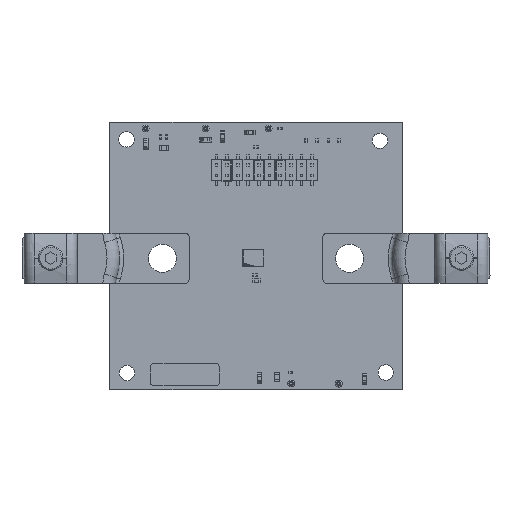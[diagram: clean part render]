
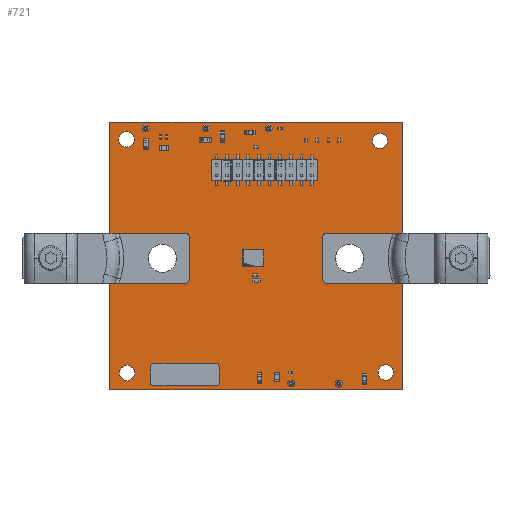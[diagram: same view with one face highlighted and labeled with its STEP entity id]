
A CAD part, top view. The second image highlights one B-rep face of the part: STEP entity #721.
In plain terms, the highlighted planar face has unit normal (0, 0, 1).
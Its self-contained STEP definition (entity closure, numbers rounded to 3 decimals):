
#196 = VERTEX_POINT('',#197);
#197 = CARTESIAN_POINT('',(0.,-0.025,1.6));
#203 = EDGE_CURVE('',#196,#204,#206,.T.);
#204 = VERTEX_POINT('',#205);
#205 = CARTESIAN_POINT('',(0.,63.906,1.6));
#206 = LINE('',#207,#208);
#207 = CARTESIAN_POINT('',(0.,-0.025,1.6));
#208 = VECTOR('',#209,1.);
#209 = DIRECTION('',(0.,1.,0.));
#234 = EDGE_CURVE('',#204,#235,#237,.T.);
#235 = VERTEX_POINT('',#236);
#236 = CARTESIAN_POINT('',(70.104,63.859,1.6));
#237 = LINE('',#238,#239);
#238 = CARTESIAN_POINT('',(0.,63.906,1.6));
#239 = VECTOR('',#240,1.);
#240 = DIRECTION('',(1.,-0.001,0.));
#265 = EDGE_CURVE('',#235,#266,#268,.T.);
#266 = VERTEX_POINT('',#267);
#267 = CARTESIAN_POINT('',(70.104,-0.072,1.6));
#268 = LINE('',#269,#270);
#269 = CARTESIAN_POINT('',(70.104,63.859,1.6));
#270 = VECTOR('',#271,1.);
#271 = DIRECTION('',(0.,-1.,0.));
#296 = EDGE_CURVE('',#266,#196,#297,.T.);
#297 = LINE('',#298,#299);
#298 = CARTESIAN_POINT('',(70.104,-0.072,1.6));
#299 = VECTOR('',#300,1.);
#300 = DIRECTION('',(-1.,0.001,0.));
#320 = VERTEX_POINT('',#321);
#321 = CARTESIAN_POINT('',(5.956,3.937,1.6));
#327 = EDGE_CURVE('',#320,#320,#328,.T.);
#328 = CIRCLE('',#329,1.842);
#329 = AXIS2_PLACEMENT_3D('',#330,#331,#332);
#330 = CARTESIAN_POINT('',(4.115,3.937,1.6));
#331 = DIRECTION('',(0.,0.,1.));
#332 = DIRECTION('',(1.,0.,-0.));
#353 = VERTEX_POINT('',#354);
#354 = CARTESIAN_POINT('',(15.938,31.369,1.6));
#360 = EDGE_CURVE('',#353,#353,#361,.T.);
#361 = CIRCLE('',#362,3.35);
#362 = AXIS2_PLACEMENT_3D('',#363,#364,#365);
#363 = CARTESIAN_POINT('',(12.588,31.369,1.6));
#364 = DIRECTION('',(0.,0.,1.));
#365 = DIRECTION('',(1.,0.,-0.));
#386 = VERTEX_POINT('',#387);
#387 = CARTESIAN_POINT('',(5.829,59.817,1.6));
#393 = EDGE_CURVE('',#386,#386,#394,.T.);
#394 = CIRCLE('',#395,1.842);
#395 = AXIS2_PLACEMENT_3D('',#396,#397,#398);
#396 = CARTESIAN_POINT('',(3.988,59.817,1.6));
#397 = DIRECTION('',(0.,0.,1.));
#398 = DIRECTION('',(1.,0.,-0.));
#419 = VERTEX_POINT('',#420);
#420 = CARTESIAN_POINT('',(23.571,62.433,1.6));
#426 = EDGE_CURVE('',#419,#419,#427,.T.);
#427 = CIRCLE('',#428,0.66);
#428 = AXIS2_PLACEMENT_3D('',#429,#430,#431);
#429 = CARTESIAN_POINT('',(22.911,62.433,1.6));
#430 = DIRECTION('',(0.,0.,1.));
#431 = DIRECTION('',(1.,0.,-0.));
#452 = VERTEX_POINT('',#453);
#453 = CARTESIAN_POINT('',(9.22,62.433,1.6));
#459 = EDGE_CURVE('',#452,#452,#460,.T.);
#460 = CIRCLE('',#461,0.66);
#461 = AXIS2_PLACEMENT_3D('',#462,#463,#464);
#462 = CARTESIAN_POINT('',(8.56,62.433,1.6));
#463 = DIRECTION('',(0.,0.,1.));
#464 = DIRECTION('',(1.,0.,-0.));
#485 = VERTEX_POINT('',#486);
#486 = CARTESIAN_POINT('',(44.043,1.397,1.6));
#492 = EDGE_CURVE('',#485,#485,#493,.T.);
#493 = CIRCLE('',#494,0.66);
#494 = AXIS2_PLACEMENT_3D('',#495,#496,#497);
#495 = CARTESIAN_POINT('',(43.383,1.397,1.6));
#496 = DIRECTION('',(0.,0.,1.));
#497 = DIRECTION('',(1.,0.,-0.));
#518 = VERTEX_POINT('',#519);
#519 = CARTESIAN_POINT('',(55.422,1.372,1.6));
#525 = EDGE_CURVE('',#518,#518,#526,.T.);
#526 = CIRCLE('',#527,0.66);
#527 = AXIS2_PLACEMENT_3D('',#528,#529,#530);
#528 = CARTESIAN_POINT('',(54.762,1.372,1.6));
#529 = DIRECTION('',(0.,0.,1.));
#530 = DIRECTION('',(1.,0.,-0.));
#551 = VERTEX_POINT('',#552);
#552 = CARTESIAN_POINT('',(67.882,4.039,1.6));
#558 = EDGE_CURVE('',#551,#551,#559,.T.);
#559 = CIRCLE('',#560,1.842);
#560 = AXIS2_PLACEMENT_3D('',#561,#562,#563);
#561 = CARTESIAN_POINT('',(66.04,4.039,1.6));
#562 = DIRECTION('',(0.,0.,1.));
#563 = DIRECTION('',(1.,0.,-0.));
#584 = VERTEX_POINT('',#585);
#585 = CARTESIAN_POINT('',(38.658,62.433,1.6));
#591 = EDGE_CURVE('',#584,#584,#592,.T.);
#592 = CIRCLE('',#593,0.66);
#593 = AXIS2_PLACEMENT_3D('',#594,#595,#596);
#594 = CARTESIAN_POINT('',(37.998,62.433,1.6));
#595 = DIRECTION('',(0.,0.,1.));
#596 = DIRECTION('',(1.,0.,-0.));
#617 = VERTEX_POINT('',#618);
#618 = CARTESIAN_POINT('',(60.739,31.369,1.6));
#624 = EDGE_CURVE('',#617,#617,#625,.T.);
#625 = CIRCLE('',#626,3.35);
#626 = AXIS2_PLACEMENT_3D('',#627,#628,#629);
#627 = CARTESIAN_POINT('',(57.389,31.369,1.6));
#628 = DIRECTION('',(0.,0.,1.));
#629 = DIRECTION('',(1.,0.,-0.));
#650 = VERTEX_POINT('',#651);
#651 = CARTESIAN_POINT('',(66.485,59.49,1.6));
#657 = EDGE_CURVE('',#650,#650,#658,.T.);
#658 = CIRCLE('',#659,1.842);
#659 = AXIS2_PLACEMENT_3D('',#660,#661,#662);
#660 = CARTESIAN_POINT('',(64.643,59.49,1.6));
#661 = DIRECTION('',(0.,0.,1.));
#662 = DIRECTION('',(1.,0.,-0.));
#721 = ADVANCED_FACE('',(#722,#728,#731,#734,#737,#740,#743,#746,#749,
    #752,#755,#758),#761,.F.);
#722 = FACE_BOUND('',#723,.F.);
#723 = EDGE_LOOP('',(#724,#725,#726,#727));
#724 = ORIENTED_EDGE('',*,*,#203,.T.);
#725 = ORIENTED_EDGE('',*,*,#234,.T.);
#726 = ORIENTED_EDGE('',*,*,#265,.T.);
#727 = ORIENTED_EDGE('',*,*,#296,.T.);
#728 = FACE_BOUND('',#729,.F.);
#729 = EDGE_LOOP('',(#730));
#730 = ORIENTED_EDGE('',*,*,#327,.T.);
#731 = FACE_BOUND('',#732,.F.);
#732 = EDGE_LOOP('',(#733));
#733 = ORIENTED_EDGE('',*,*,#360,.T.);
#734 = FACE_BOUND('',#735,.F.);
#735 = EDGE_LOOP('',(#736));
#736 = ORIENTED_EDGE('',*,*,#393,.T.);
#737 = FACE_BOUND('',#738,.F.);
#738 = EDGE_LOOP('',(#739));
#739 = ORIENTED_EDGE('',*,*,#426,.T.);
#740 = FACE_BOUND('',#741,.F.);
#741 = EDGE_LOOP('',(#742));
#742 = ORIENTED_EDGE('',*,*,#459,.T.);
#743 = FACE_BOUND('',#744,.F.);
#744 = EDGE_LOOP('',(#745));
#745 = ORIENTED_EDGE('',*,*,#492,.T.);
#746 = FACE_BOUND('',#747,.F.);
#747 = EDGE_LOOP('',(#748));
#748 = ORIENTED_EDGE('',*,*,#525,.T.);
#749 = FACE_BOUND('',#750,.F.);
#750 = EDGE_LOOP('',(#751));
#751 = ORIENTED_EDGE('',*,*,#558,.T.);
#752 = FACE_BOUND('',#753,.F.);
#753 = EDGE_LOOP('',(#754));
#754 = ORIENTED_EDGE('',*,*,#591,.T.);
#755 = FACE_BOUND('',#756,.F.);
#756 = EDGE_LOOP('',(#757));
#757 = ORIENTED_EDGE('',*,*,#624,.T.);
#758 = FACE_BOUND('',#759,.F.);
#759 = EDGE_LOOP('',(#760));
#760 = ORIENTED_EDGE('',*,*,#657,.T.);
#761 = PLANE('',#762);
#762 = AXIS2_PLACEMENT_3D('',#763,#764,#765);
#763 = CARTESIAN_POINT('',(35.052,31.917,1.6));
#764 = DIRECTION('',(-0.,-0.,-1.));
#765 = DIRECTION('',(-1.,0.,0.));
